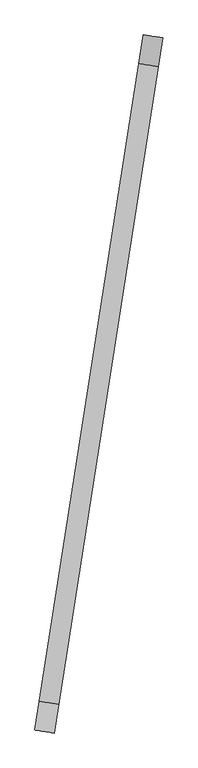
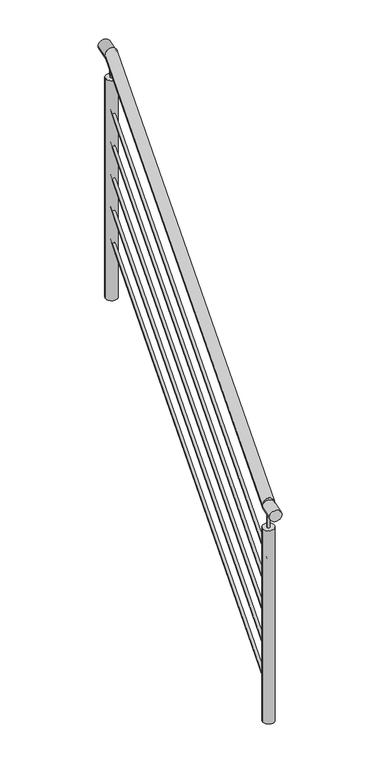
"""IFC4 building model written with IfcOpenShell, lengths in millimetres: railing geometry, Barandal acero inox - escalera."""

from ifc_helpers import new_model, si_unit, point, frame, frame_2d, origin, place, context, project, spatial, circle_curve, ellipse_curve, trimmed, segment, composite_curve, outline, extrude, source, transform, mapped, element, save
from ifc_brep_helpers import plane_surface, cylinder_surface, advanced_brep


def railing_b944baa2(model_context):
    return source(origin(), model_context, "Body", "SolidModel", [
        advanced_brep(
        [(-31911.8313057, -68213.129215, 2965.7894737), (-31962.0252265, -68205.3055131, 2965.7894737), (-31656.9761667, -66578.0747497, 3971.8822321), (-31707.1700875, -66570.2510478, 3971.8822321)],
        [
            (0, 1, ellipse_curve(frame((-31936.9282661, -68209.217364, 2965.7894737), z_axis=(-0.1540098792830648, -0.988069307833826, 0.0), x_axis=(0.0, 0.0, -1.0)), 29.7261002, 25.4)),
            (1, 0, ellipse_curve(frame((-31936.9282661, -68209.217364, 2965.7894737), z_axis=(-0.1540098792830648, -0.988069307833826, 0.0), x_axis=(0.0, 0.0, -1.0)), 29.7261002, 25.4)),
            (2, 3, ellipse_curve(frame((-31682.0731271, -66574.1628987, 3971.8822321), z_axis=(0.1540098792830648, 0.988069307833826, 0.0), x_axis=(0.0, 0.0, -1.0)), 29.7261002, 25.4)),
            (3, 2, ellipse_curve(frame((-31682.0731271, -66574.1628987, 3971.8822321), z_axis=(0.1540098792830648, 0.988069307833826, 0.0), x_axis=(0.0, 0.0, -1.0)), 29.7261002, 25.4)),
            (0, 2),
            (3, 1),
        ],
        [
            plane_surface(frame((-31936.9282661, -68209.217364, 2965.7894737), z_axis=(-0.1540098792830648, -0.988069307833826, 0.0), x_axis=(0.988069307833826, -0.1540098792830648, 0.0))),
            plane_surface(frame((-31682.0731271, -66574.1628987, 3971.8822321), z_axis=(0.1540098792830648, 0.988069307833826, 0.0), x_axis=(0.988069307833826, -0.1540098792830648, 0.0))),
            cylinder_surface(frame((-31936.9282661, -68209.217364, 2965.7894737), z_axis=(-0.13159650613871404, -0.844273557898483, -0.5195041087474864), x_axis=(-0.988069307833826, 0.1540098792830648, 0.0)), 25.4),
        ],
        [
            (0, [[1, 2]]),
            (1, [[3, 4]]),
            (2, [[-1, 5, -4, 6]]),
            (2, [[-2, -6, -3, -5]]),
        ],
    ),
        advanced_brep(
        [(-31930.654026, -68210.1953268, 2715.7894737), (-31943.2025062, -68208.2394013, 2715.7894737), (-31675.798887, -66575.1408615, 3721.8822321), (-31688.3473672, -66573.184936, 3721.8822321)],
        [
            (0, 1, ellipse_curve(frame((-31936.9282661, -68209.217364, 2715.7894737), z_axis=(-0.1540098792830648, -0.988069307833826, 0.0), x_axis=(0.0, 0.0, -1.0)), 7.4315251, 6.35)),
            (1, 0, ellipse_curve(frame((-31936.9282661, -68209.217364, 2715.7894737), z_axis=(-0.1540098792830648, -0.988069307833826, 0.0), x_axis=(0.0, 0.0, -1.0)), 7.4315251, 6.35)),
            (2, 3, ellipse_curve(frame((-31682.0731271, -66574.1628987, 3721.8822321), z_axis=(0.1540098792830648, 0.988069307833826, 0.0), x_axis=(0.0, 0.0, -1.0)), 7.4315251, 6.35)),
            (3, 2, ellipse_curve(frame((-31682.0731271, -66574.1628987, 3721.8822321), z_axis=(0.1540098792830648, 0.988069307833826, 0.0), x_axis=(0.0, 0.0, -1.0)), 7.4315251, 6.35)),
            (0, 2),
            (3, 1),
        ],
        [
            plane_surface(frame((-31936.9282661, -68209.217364, 2715.7894737), z_axis=(-0.1540098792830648, -0.988069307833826, 0.0), x_axis=(0.988069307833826, -0.1540098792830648, 0.0))),
            plane_surface(frame((-31682.0731271, -66574.1628987, 3721.8822321), z_axis=(0.1540098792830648, 0.988069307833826, 0.0), x_axis=(0.988069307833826, -0.1540098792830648, 0.0))),
            cylinder_surface(frame((-31936.9282661, -68209.217364, 2715.7894737), z_axis=(-0.13159650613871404, -0.844273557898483, -0.5195041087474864), x_axis=(-0.988069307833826, 0.1540098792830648, 0.0)), 6.35),
        ],
        [
            (0, [[1, 2]]),
            (1, [[3, 4]]),
            (2, [[-1, 5, -4, 6]]),
            (2, [[-2, -6, -3, -5]]),
        ],
    ),
        advanced_brep(
        [(-31930.654026, -68210.1953268, 2565.7894737), (-31943.2025062, -68208.2394013, 2565.7894737), (-31675.798887, -66575.1408615, 3571.8822321), (-31688.3473672, -66573.184936, 3571.8822321)],
        [
            (0, 1, ellipse_curve(frame((-31936.9282661, -68209.217364, 2565.7894737), z_axis=(-0.1540098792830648, -0.988069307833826, 0.0), x_axis=(0.0, 0.0, -1.0)), 7.4315251, 6.35)),
            (1, 0, ellipse_curve(frame((-31936.9282661, -68209.217364, 2565.7894737), z_axis=(-0.1540098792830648, -0.988069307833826, 0.0), x_axis=(0.0, 0.0, -1.0)), 7.4315251, 6.35)),
            (2, 3, ellipse_curve(frame((-31682.0731271, -66574.1628987, 3571.8822321), z_axis=(0.1540098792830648, 0.988069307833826, 0.0), x_axis=(0.0, 0.0, -1.0)), 7.4315251, 6.35)),
            (3, 2, ellipse_curve(frame((-31682.0731271, -66574.1628987, 3571.8822321), z_axis=(0.1540098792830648, 0.988069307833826, 0.0), x_axis=(0.0, 0.0, -1.0)), 7.4315251, 6.35)),
            (0, 2),
            (3, 1),
        ],
        [
            plane_surface(frame((-31936.9282661, -68209.217364, 2565.7894737), z_axis=(-0.1540098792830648, -0.988069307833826, 0.0), x_axis=(0.988069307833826, -0.1540098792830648, 0.0))),
            plane_surface(frame((-31682.0731271, -66574.1628987, 3571.8822321), z_axis=(0.1540098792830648, 0.988069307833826, 0.0), x_axis=(0.988069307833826, -0.1540098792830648, 0.0))),
            cylinder_surface(frame((-31936.9282661, -68209.217364, 2565.7894737), z_axis=(-0.13159650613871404, -0.844273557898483, -0.5195041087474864), x_axis=(-0.988069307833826, 0.1540098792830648, 0.0)), 6.35),
        ],
        [
            (0, [[1, 2]]),
            (1, [[3, 4]]),
            (2, [[-1, 5, -4, 6]]),
            (2, [[-2, -6, -3, -5]]),
        ],
    ),
        advanced_brep(
        [(-31930.654026, -68210.1953268, 2415.7894737), (-31943.2025062, -68208.2394013, 2415.7894737), (-31675.798887, -66575.1408615, 3421.8822321), (-31688.3473672, -66573.184936, 3421.8822321)],
        [
            (0, 1, ellipse_curve(frame((-31936.9282661, -68209.217364, 2415.7894737), z_axis=(-0.1540098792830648, -0.988069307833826, 0.0), x_axis=(0.0, 0.0, -1.0)), 7.4315251, 6.35)),
            (1, 0, ellipse_curve(frame((-31936.9282661, -68209.217364, 2415.7894737), z_axis=(-0.1540098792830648, -0.988069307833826, 0.0), x_axis=(0.0, 0.0, -1.0)), 7.4315251, 6.35)),
            (2, 3, ellipse_curve(frame((-31682.0731271, -66574.1628987, 3421.8822321), z_axis=(0.1540098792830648, 0.988069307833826, 0.0), x_axis=(0.0, 0.0, -1.0)), 7.4315251, 6.35)),
            (3, 2, ellipse_curve(frame((-31682.0731271, -66574.1628987, 3421.8822321), z_axis=(0.1540098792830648, 0.988069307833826, 0.0), x_axis=(0.0, 0.0, -1.0)), 7.4315251, 6.35)),
            (0, 2),
            (3, 1),
        ],
        [
            plane_surface(frame((-31936.9282661, -68209.217364, 2415.7894737), z_axis=(-0.1540098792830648, -0.988069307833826, 0.0), x_axis=(0.988069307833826, -0.1540098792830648, 0.0))),
            plane_surface(frame((-31682.0731271, -66574.1628987, 3421.8822321), z_axis=(0.1540098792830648, 0.988069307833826, 0.0), x_axis=(0.988069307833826, -0.1540098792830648, 0.0))),
            cylinder_surface(frame((-31936.9282661, -68209.217364, 2415.7894737), z_axis=(-0.13159650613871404, -0.844273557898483, -0.5195041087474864), x_axis=(-0.988069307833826, 0.1540098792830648, 0.0)), 6.35),
        ],
        [
            (0, [[1, 2]]),
            (1, [[3, 4]]),
            (2, [[-1, 5, -4, 6]]),
            (2, [[-2, -6, -3, -5]]),
        ],
    ),
        advanced_brep(
        [(-31930.654026, -68210.1953268, 2265.7894737), (-31943.2025062, -68208.2394013, 2265.7894737), (-31675.798887, -66575.1408615, 3271.8822321), (-31688.3473672, -66573.184936, 3271.8822321)],
        [
            (0, 1, ellipse_curve(frame((-31936.9282661, -68209.217364, 2265.7894737), z_axis=(-0.1540098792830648, -0.988069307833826, 0.0), x_axis=(0.0, 0.0, -1.0)), 7.4315251, 6.35)),
            (1, 0, ellipse_curve(frame((-31936.9282661, -68209.217364, 2265.7894737), z_axis=(-0.1540098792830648, -0.988069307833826, 0.0), x_axis=(0.0, 0.0, -1.0)), 7.4315251, 6.35)),
            (2, 3, ellipse_curve(frame((-31682.0731271, -66574.1628987, 3271.8822321), z_axis=(0.1540098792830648, 0.988069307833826, 0.0), x_axis=(0.0, 0.0, -1.0)), 7.4315251, 6.35)),
            (3, 2, ellipse_curve(frame((-31682.0731271, -66574.1628987, 3271.8822321), z_axis=(0.1540098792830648, 0.988069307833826, 0.0), x_axis=(0.0, 0.0, -1.0)), 7.4315251, 6.35)),
            (0, 2),
            (3, 1),
        ],
        [
            plane_surface(frame((-31936.9282661, -68209.217364, 2265.7894737), z_axis=(-0.1540098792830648, -0.988069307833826, 0.0), x_axis=(0.988069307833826, -0.1540098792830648, 0.0))),
            plane_surface(frame((-31682.0731271, -66574.1628987, 3271.8822321), z_axis=(0.1540098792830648, 0.988069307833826, 0.0), x_axis=(0.988069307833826, -0.1540098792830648, 0.0))),
            cylinder_surface(frame((-31936.9282661, -68209.217364, 2265.7894737), z_axis=(-0.13159650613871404, -0.844273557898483, -0.5195041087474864), x_axis=(-0.988069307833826, 0.1540098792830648, 0.0)), 6.35),
        ],
        [
            (0, [[1, 2]]),
            (1, [[3, 4]]),
            (2, [[-1, 5, -4, 6]]),
            (2, [[-2, -6, -3, -5]]),
        ],
    ),
        advanced_brep(
        [(-31930.654026, -68210.1953268, 2115.7894737), (-31943.2025062, -68208.2394013, 2115.7894737), (-31675.798887, -66575.1408615, 3121.8822321), (-31688.3473672, -66573.184936, 3121.8822321)],
        [
            (0, 1, ellipse_curve(frame((-31936.9282661, -68209.217364, 2115.7894737), z_axis=(-0.1540098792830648, -0.988069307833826, 0.0), x_axis=(0.0, 0.0, -1.0)), 7.4315251, 6.35)),
            (1, 0, ellipse_curve(frame((-31936.9282661, -68209.217364, 2115.7894737), z_axis=(-0.1540098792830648, -0.988069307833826, 0.0), x_axis=(0.0, 0.0, -1.0)), 7.4315251, 6.35)),
            (2, 3, ellipse_curve(frame((-31682.0731271, -66574.1628987, 3121.8822321), z_axis=(0.1540098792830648, 0.988069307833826, 0.0), x_axis=(0.0, 0.0, -1.0)), 7.4315251, 6.35)),
            (3, 2, ellipse_curve(frame((-31682.0731271, -66574.1628987, 3121.8822321), z_axis=(0.1540098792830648, 0.988069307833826, 0.0), x_axis=(0.0, 0.0, -1.0)), 7.4315251, 6.35)),
            (0, 2),
            (3, 1),
        ],
        [
            plane_surface(frame((-31936.9282661, -68209.217364, 2115.7894737), z_axis=(-0.1540098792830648, -0.988069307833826, 0.0), x_axis=(0.988069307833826, -0.1540098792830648, 0.0))),
            plane_surface(frame((-31682.0731271, -66574.1628987, 3121.8822321), z_axis=(0.1540098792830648, 0.988069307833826, 0.0), x_axis=(0.988069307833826, -0.1540098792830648, 0.0))),
            cylinder_surface(frame((-31936.9282661, -68209.217364, 2115.7894737), z_axis=(-0.13159650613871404, -0.844273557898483, -0.5195041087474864), x_axis=(-0.988069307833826, 0.1540098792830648, 0.0)), 6.35),
        ],
        [
            (0, [[1, 2]]),
            (1, [[3, 4]]),
            (2, [[-1, 5, -4, 6]]),
            (2, [[-2, -6, -3, -5]]),
        ],
    ),
        extrude(outline(composite_curve([segment(trimmed(circle_curve(frame_2d((0.0, 25.4)), 25.4), [point((0.0, 50.8))], [point((0.0, 0.0))], False, "CARTESIAN"), True, "CONTINUOUS"), segment(trimmed(circle_curve(frame_2d((0.0, 25.4)), 25.4), [point((0.0, 0.0))], [point((0.0, 50.8))], False, "CARTESIAN"), True, "CONTINUOUS")], self_intersect=False)), frame((-31656.9761667, -66578.0747497, 3967.5561319), z_axis=(0.15400987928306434, 0.9880693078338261, 0.0), x_axis=(0.0, 0.0, -1.0)), (0.0, 0.0, 1.0), 75.0),
        extrude(outline(composite_curve([segment(trimmed(circle_curve(frame_2d((-31682.0731271, -66574.1628987)), 6.35), [point((-31688.3473672, -66573.184936))], [point((-31675.798887, -66575.1408615))], False, "CARTESIAN"), True, "CONTINUOUS"), segment(trimmed(circle_curve(frame_2d((-31682.0731271, -66574.1628987)), 6.35), [point((-31675.798887, -66575.1408615))], [point((-31688.3473672, -66573.184936))], False, "CARTESIAN"), True, "CONTINUOUS")], self_intersect=False)), frame((0.0, 0.0, 3867.1561319), z_axis=(0.0, 0.0, 1.0), x_axis=(1.0, 0.0, 0.0)), (0.0, 0.0, 1.0), 75.0),
        extrude(outline(composite_curve([segment(trimmed(circle_curve(frame_2d((-31682.0731271, -66574.1628987)), 25.4), [point((-31707.1700875, -66570.2510478))], [point((-31656.9761667, -66578.0747497))], False, "CARTESIAN"), True, "CONTINUOUS"), segment(trimmed(circle_curve(frame_2d((-31682.0731271, -66574.1628987)), 25.4), [point((-31656.9761667, -66578.0747497))], [point((-31707.1700875, -66570.2510478))], False, "CARTESIAN"), True, "CONTINUOUS")], self_intersect=False)), frame((0.0, 0.0, 2847.3684211), z_axis=(0.0, 0.0, 1.0), x_axis=(1.0, 0.0, 0.0)), (0.0, 0.0, 1.0), 1019.7877108),
        extrude(outline(composite_curve([segment(trimmed(circle_curve(frame_2d((0.0, 25.4000001)), 25.4), [point((0.0, 50.8000001))], [point((0.0, 0.0))], False, "CARTESIAN"), True, "CONTINUOUS"), segment(trimmed(circle_curve(frame_2d((0.0, 25.4000001)), 25.4), [point((0.0, 0.0))], [point((0.0, 50.8000001))], False, "CARTESIAN"), True, "CONTINUOUS")], self_intersect=False)), frame((-31923.3820466, -68287.2344131, 2961.4633734), z_axis=(0.15400987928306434, 0.9880693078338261, 0.0), x_axis=(0.0, 0.0, -1.0)), (0.0, 0.0, 1.0), 75.0),
        extrude(outline(composite_curve([segment(trimmed(circle_curve(frame_2d((-31936.9282661, -68209.217364)), 6.35), [point((-31943.2025062, -68208.2394013))], [point((-31930.654026, -68210.1953268))], False, "CARTESIAN"), True, "CONTINUOUS"), segment(trimmed(circle_curve(frame_2d((-31936.9282661, -68209.217364)), 6.35), [point((-31930.654026, -68210.1953268))], [point((-31943.2025062, -68208.2394013))], False, "CARTESIAN"), True, "CONTINUOUS")], self_intersect=False)), frame((0.0, 0.0, 2861.0633734), z_axis=(0.0, 0.0, 1.0), x_axis=(1.0, 0.0, 0.0)), (0.0, 0.0, 1.0), 75.0),
        extrude(outline(composite_curve([segment(trimmed(circle_curve(frame_2d((-31936.9282661, -68209.217364)), 25.4), [point((-31962.0252265, -68205.3055131))], [point((-31911.8313057, -68213.129215))], False, "CARTESIAN"), True, "CONTINUOUS"), segment(trimmed(circle_curve(frame_2d((-31936.9282661, -68209.217364)), 25.4), [point((-31911.8313057, -68213.129215))], [point((-31962.0252265, -68205.3055131))], False, "CARTESIAN"), True, "CONTINUOUS")], self_intersect=False)), frame((0.0, 0.0, 1965.7894737), z_axis=(0.0, 0.0, 1.0), x_axis=(1.0, 0.0, 0.0)), (0.0, 0.0, 1.0), 895.2738998),
    ])


if __name__ == "__main__":
    model = new_model("IFC4")
    model_context = context("Model", 3, world=origin())
    ifc_project = project(units=[si_unit("LENGTHUNIT", "METRE", prefix="MILLI")], contexts=[model_context])
    site = spatial("IfcSite", under=ifc_project)
    building = spatial("IfcBuilding", under=site)
    placement = place(None, origin())
    railing_shape = railing_b944baa2(model_context)
    element("IfcRailing", 1, ObjectType="Barandal acero inox - escalera", at=placement, inside=building, context=model_context, shape_type="MappedRepresentation", body=[
        mapped(railing_shape, transform((0.0, 0.0, 0.0), x_axis=(1.0, 0.0, 0.0), y_axis=(0.0, 1.0, 0.0), z_axis=(0.0, 0.0, 1.0))),
    ])
    save(model, "model.ifc")
